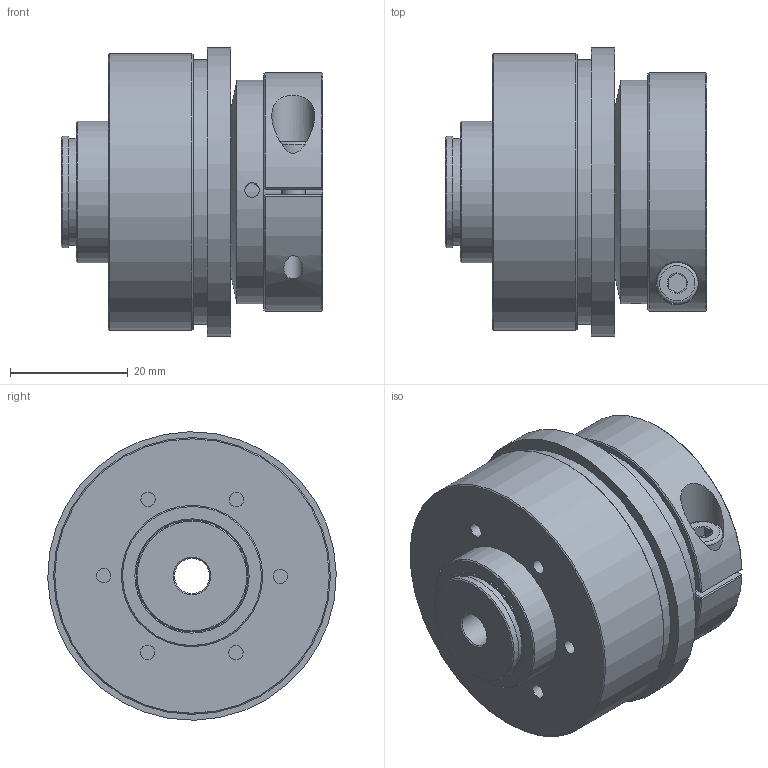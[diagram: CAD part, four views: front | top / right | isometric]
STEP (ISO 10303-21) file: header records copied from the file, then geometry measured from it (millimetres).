
FILE_DESCRIPTION( ( 'Unknown' ), '1' );
FILE_NAME( 'C:/Users/TWalzel/Documents/CAD-Daten/KBK-CK/7/KBK CK-7.stp', 'Unknown', ( 'Unknown' ), ( 'Unknown' ), 'PSStep 16.0.42', 'Unknown', ' ' );
FILE_SCHEMA( ( 'AUTOMOTIVE_DESIGN { 1 0 10303 214 1 1 1 1 }' ) );
Length unit declared in the file: millimetre
Products named in the file (10): Stellring 10_0; Klemmnabe 7-10_0; Druckring 10_0; Assem1; Flansch-Gleitlager CK-7_1; Grundkörper CK-7_1; ISO EN DIN 4762 M4x12
Assembly tree (9 placements, depth 3):
  Assem1
    Flansch-Gleitlager CK-7_1
    Grundkörper CK-7_1
    ISO EN DIN 4762 M4x12
    Klemmnabe 7-10_0
      Klemmnabe 7-10_0
    Druckring 10_0
      Druckring 10_0
    Stellring 10_0
      Stellring 10_0
Bounding box: 44.4 x 48.99 x 48.99 mm (x, y, z)
Volume: 55090 mm3; surface area: 24580.4 mm2
Topology: 6 solids, 6 shells, 117 faces, 242 edges, 152 vertices
Faces by surface type: plane 49, cylinder 41, cone 22, torus 5
Full cylindrical faces by diameter (mm): 2.459 x14, 3.242 x1, 3.5 x1, 4 x2, 4.2 x1, 6 x1, 7 x1, 7.3 x1, 18.2 x1, 19 x3, 22 x1, 24 x3, 25 x1, 29.993 x1, 38 x1, 40 x1, 45 x1, 47 x1, 49 x1
Entity records: 4164 total; most frequent: CARTESIAN_POINT 740, DIRECTION 540, ORIENTED_EDGE 354, AXIS2_PLACEMENT_3D 245, EDGE_LOOP 202, EDGE_CURVE 177, FACE_OUTER_BOUND 159, VERTEX_POINT 141
